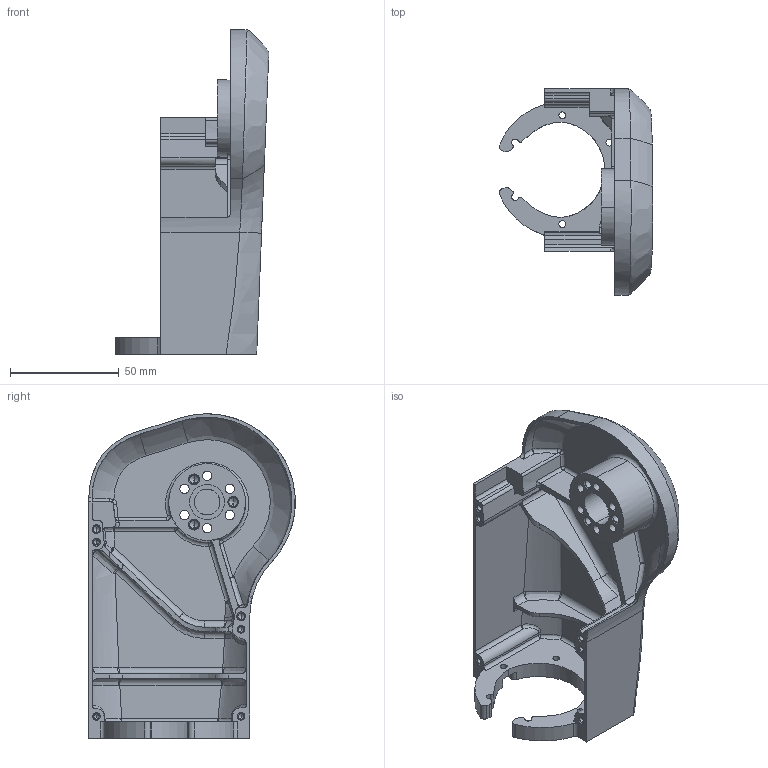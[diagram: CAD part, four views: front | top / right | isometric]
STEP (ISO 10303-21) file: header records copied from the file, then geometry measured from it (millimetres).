
FILE_DESCRIPTION((''),'2;1');
FILE_NAME('KC-C-401R_UP_FOREARM_DRIVE_1','2025-07-12T14:16:52',('Administrator'),(''),'CREO PARAMETRIC BY PTC INC, 2022073','CREO PARAMETRIC BY PTC INC, 2022073','');
FILE_SCHEMA(('CONFIG_CONTROL_DESIGN'));
Length unit declared in the file: millimetre
Products named in the file (1): KC-C-401R_UP_FOREARM_DRIVE_1
Bounding box: 70.57 x 94.81 x 149 mm (x, y, z)
Volume: 79517.6 mm3; surface area: 57378.5 mm2
Topology: 1 solids, 1 shells, 385 faces, 1049 edges, 634 vertices
Faces by surface type: cylinder 146, bspline 102, plane 64, cone 56, sphere 8, torus 5, extrusion 4
Entity records: 25584 total; most frequent: CARTESIAN_POINT 16794, ORIENTED_EDGE 1990, DIRECTION 1590, EDGE_CURVE 995, VERTEX_POINT 633, AXIS2_PLACEMENT_3D 628, EDGE_LOOP 424, FACE_OUTER_BOUND 384
